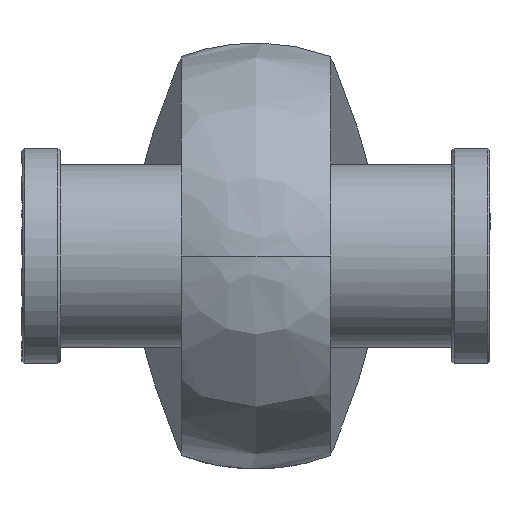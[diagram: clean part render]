
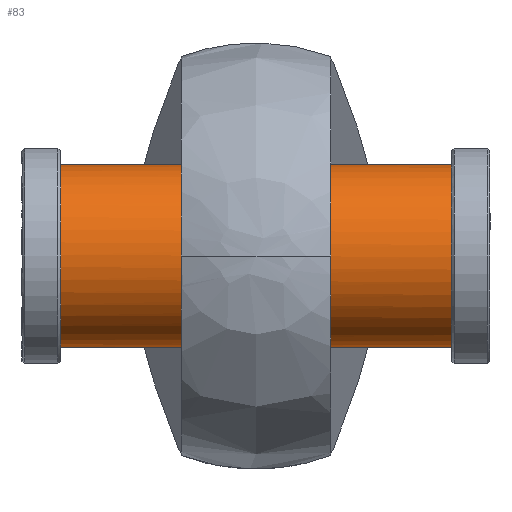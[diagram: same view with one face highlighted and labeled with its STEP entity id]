
A CAD part, left-side view. The second image highlights one B-rep face of the part: STEP entity #83.
In plain terms, the highlighted cylindrical face has radius 16.5 mm (diameter 33 mm), a full revolution.
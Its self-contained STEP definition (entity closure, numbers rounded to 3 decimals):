
#83=ADVANCED_FACE('',(#157),#1209,.T.);
#157=FACE_OUTER_BOUND('',#238,.T.);
#238=EDGE_LOOP('',(#506,#507,#508,#509));
#506=ORIENTED_EDGE('',*,*,#772,.T.);
#507=ORIENTED_EDGE('',*,*,#774,.T.);
#508=ORIENTED_EDGE('',*,*,#773,.T.);
#509=ORIENTED_EDGE('',*,*,#774,.F.);
#772=EDGE_CURVE('',#1124,#1124,#980,.T.);
#773=EDGE_CURVE('',#1125,#1125,#981,.T.);
#774=EDGE_CURVE('',#1124,#1125,#894,.T.);
#894=B_SPLINE_CURVE_WITH_KNOTS('',1,(#2243,#2244),.UNSPECIFIED.,.F.,.F.,
(2,2),(7.179,77.764),.UNSPECIFIED.);
#980=(
BOUNDED_CURVE()
B_SPLINE_CURVE(2,(#2225,#2226,#2227,#2228,#2229,#2230,#2231,#2232,#2233),
 .UNSPECIFIED.,.T.,.F.)
B_SPLINE_CURVE_WITH_KNOTS((3,2,2,2,3),(0.,25.918,51.836,
77.754,103.673),.UNSPECIFIED.)
CURVE()
GEOMETRIC_REPRESENTATION_ITEM()
RATIONAL_B_SPLINE_CURVE((1.,0.707,1.,0.707,1.,0.707,
1.,0.707,1.))
REPRESENTATION_ITEM('')
);
#981=(
BOUNDED_CURVE()
B_SPLINE_CURVE(2,(#2234,#2235,#2236,#2237,#2238,#2239,#2240,#2241,#2242),
 .UNSPECIFIED.,.T.,.F.)
B_SPLINE_CURVE_WITH_KNOTS((3,2,2,2,3),(0.,25.918,51.836,
77.754,103.673),.UNSPECIFIED.)
CURVE()
GEOMETRIC_REPRESENTATION_ITEM()
RATIONAL_B_SPLINE_CURVE((1.,0.707,1.,0.707,1.,0.707,
1.,0.707,1.))
REPRESENTATION_ITEM('')
);
#1124=VERTEX_POINT('',#2177);
#1125=VERTEX_POINT('',#2178);
#1209=CYLINDRICAL_SURFACE('',#1361,16.5);
#1361=AXIS2_PLACEMENT_3D('',#2167,#1407,$);
#1407=DIRECTION('',(0.,-1.,0.));
#2167=CARTESIAN_POINT('',(0.,0.,0.));
#2177=CARTESIAN_POINT('',(16.5,35.293,0.));
#2178=CARTESIAN_POINT('',(16.5,-35.293,0.));
#2225=CARTESIAN_POINT('',(16.5,35.293,0.));
#2226=CARTESIAN_POINT('',(16.5,35.293,16.5));
#2227=CARTESIAN_POINT('',(0.,35.293,16.5));
#2228=CARTESIAN_POINT('',(-16.5,35.293,16.5));
#2229=CARTESIAN_POINT('',(-16.5,35.293,0.));
#2230=CARTESIAN_POINT('',(-16.5,35.293,-16.5));
#2231=CARTESIAN_POINT('',(0.,35.293,-16.5));
#2232=CARTESIAN_POINT('',(16.5,35.293,-16.5));
#2233=CARTESIAN_POINT('',(16.5,35.293,0.));
#2234=CARTESIAN_POINT('',(16.5,-35.293,0.));
#2235=CARTESIAN_POINT('',(16.5,-35.293,-16.5));
#2236=CARTESIAN_POINT('',(0.,-35.293,-16.5));
#2237=CARTESIAN_POINT('',(-16.5,-35.293,-16.5));
#2238=CARTESIAN_POINT('',(-16.5,-35.293,0.));
#2239=CARTESIAN_POINT('',(-16.5,-35.293,16.5));
#2240=CARTESIAN_POINT('',(0.,-35.293,16.5));
#2241=CARTESIAN_POINT('',(16.5,-35.293,16.5));
#2242=CARTESIAN_POINT('',(16.5,-35.293,0.));
#2243=CARTESIAN_POINT('',(16.5,35.293,0.));
#2244=CARTESIAN_POINT('',(16.5,-35.293,0.));
